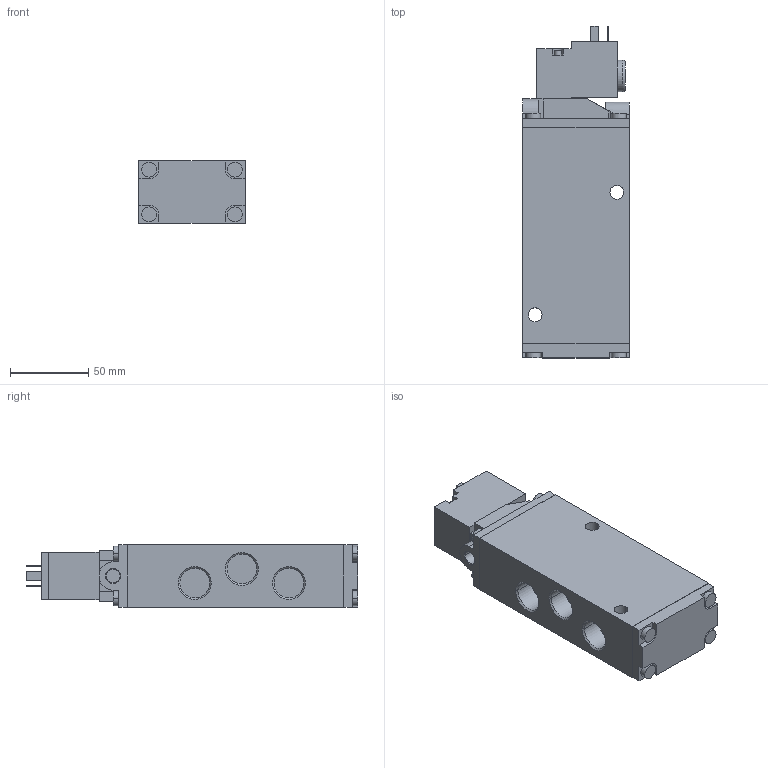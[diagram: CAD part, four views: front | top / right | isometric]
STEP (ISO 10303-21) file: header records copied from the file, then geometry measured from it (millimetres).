
FILE_DESCRIPTION((''),'2;1');
FILE_NAME('5725475270','2015-03-23T',('mla1hc'),(''),'PRO/ENGINEER BY PARAMETRIC TECHNOLOGY CORPORATION, 2011490','PRO/ENGINEER BY PARAMETRIC TECHNOLOGY CORPORATION, 2011490','');
FILE_SCHEMA(('AUTOMOTIVE_DESIGN_CC2 { 1 2 10303 214 -1 1 5 2 }'));
Length unit declared in the file: millimetre
Products named in the file (1): 5725475270
Bounding box: 68 x 211.5 x 40 mm (x, y, z)
Volume: 460027.9 mm3; surface area: 57877.5 mm2
Topology: 1 solids, 1 shells, 197 faces, 476 edges, 309 vertices
Faces by surface type: plane 119, cylinder 60, cone 16, torus 2
Entity records: 5755 total; most frequent: CARTESIAN_POINT 1005, DIRECTION 1001, ORIENTED_EDGE 952, EDGE_CURVE 476, AXIS2_PLACEMENT_3D 334, VECTOR 333, LINE 333, VERTEX_POINT 309
